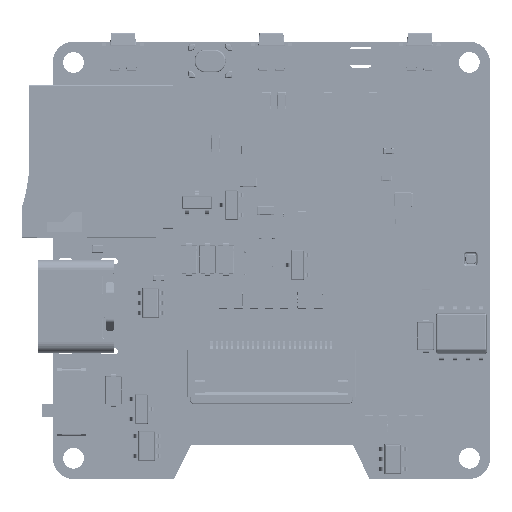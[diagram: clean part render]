
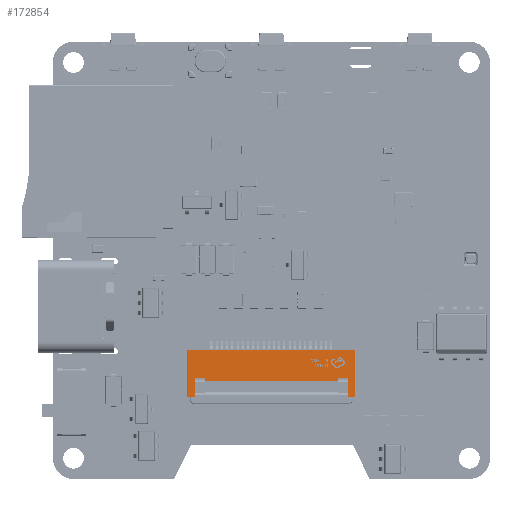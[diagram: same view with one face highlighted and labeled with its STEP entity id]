
A CAD part, top view. The second image highlights one B-rep face of the part: STEP entity #172854.
In plain terms, the highlighted planar face has unit normal (0, 0, 1).
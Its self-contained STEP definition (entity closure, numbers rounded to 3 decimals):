
#118796=CARTESIAN_POINT('NONE',(-6.349,-1.,2.));
#119092=CARTESIAN_POINT('NONE',(6.349,-0.7,2.));
#119207=DIRECTION('NONE',(-1.,0.,0.));
#119262 = PLANE('NONE',#152130) ;
#120369=DIRECTION('NONE',(0.,-1.,0.));
#120433=DIRECTION('NONE',(0.,-1.,0.));
#120490 = LINE('NONE',#125055,#163314) ;
#121217=DIRECTION('NONE',(0.,1.,0.));
#122499=CARTESIAN_POINT('NONE',(7.999,-2.45,2.));
#123602 = EDGE_CURVE('NONE',#142149,#177747,#176579,.T.) ;
#123939 = LINE('NONE',#129097,#128405) ;
#124751=DIRECTION('NONE',(-1.,0.,0.));
#125055=CARTESIAN_POINT('NONE',(-8.099,2.05,2.));
#125077=DIRECTION('NONE',(-1.,0.,0.));
#126264 = ORIENTED_EDGE('NONE',*,*,#155897,.T.) ;
#128405=VECTOR('NONE',#175008,999.9200000000001.);
#128904 = EDGE_CURVE('NONE',#168753,#172395,#151723,.T.) ;
#129052 = LINE('NONE',#134223,#175474) ;
#129097=CARTESIAN_POINT('NONE',(7.349,-0.7,2.));
#129929=CARTESIAN_POINT('NONE',(6.349,-1.,2.));
#130938 = ORIENTED_EDGE('NONE',*,*,#133746,.T.) ;
#131165 = VERTEX_POINT('NONE',#132175) ;
#131600 = EDGE_CURVE('NONE',#143748,#162889,#175836,.T.) ;
#132175=CARTESIAN_POINT('NONE',(-6.349,-0.7,2.));
#133746 = EDGE_CURVE('NONE',#168404,#157327,#139215,.T.) ;
#134223=CARTESIAN_POINT('NONE',(-8.099,-2.45,2.));
#134719=CARTESIAN_POINT('NONE',(-7.349,-2.45,2.));
#134733=DIRECTION('NONE',(1.,0.,0.));
#135111 = ORIENTED_EDGE('NONE',*,*,#148860,.F.) ;
#137652=CARTESIAN_POINT('NONE',(6.349,-1.,2.));
#137713 = EDGE_CURVE('NONE',#157327,#137969,#129052,.T.) ;
#137969 = VERTEX_POINT('NONE',#155151) ;
#139215 = LINE('NONE',#144055,#178322) ;
#140592 = LINE('NONE',#163073,#157879) ;
#140615 = ORIENTED_EDGE('NONE',*,*,#131600,.F.) ;
#141958=VECTOR('NONE',#120433,999.9200000000001.);
#142149 = VERTEX_POINT('NONE',#122499) ;
#142493=VECTOR('NONE',#125077,999.9200000000001.);
#143496=CARTESIAN_POINT('NONE',(-7.999,-2.45,2.));
#143748 = VERTEX_POINT('NONE',#137652) ;
#143842=DIRECTION('NONE',(0.,0.,1.));
#144055=CARTESIAN_POINT('NONE',(-7.999,-2.45,2.));
#144343=DIRECTION('NONE',(0.,1.,0.));
#144571 = ORIENTED_EDGE('NONE',*,*,#146785,.F.) ;
#146608=DIRECTION('NONE',(-1.,0.,0.));
#146785 = EDGE_CURVE('NONE',#176123,#137969,#166597,.T.) ;
#147516 = EDGE_CURVE('NONE',#172395,#143748,#158193,.T.) ;
#147853 = ORIENTED_EDGE('NONE',*,*,#128904,.F.) ;
#148860 = EDGE_CURVE('NONE',#162889,#131165,#157688,.T.) ;
#149449=VECTOR('NONE',#146608,999.9200000000001.);
#151723 = LINE('NONE',#156874,#162841) ;
#152130=AXIS2_PLACEMENT_3D('NONE',#157815,#143842,#134733);
#152367 = EDGE_CURVE('NONE',#131165,#176123,#165074,.T.) ;
#153115=CARTESIAN_POINT('NONE',(7.349,-2.45,2.));
#154797 = VERTEX_POINT('NONE',#153115) ;
#155151=CARTESIAN_POINT('NONE',(-7.349,-2.45,2.));
#155484=VECTOR('NONE',#175001,999.9200000000001.);
#155897 = EDGE_CURVE('NONE',#177747,#168404,#120490,.T.) ;
#156306 = FACE_OUTER_BOUND('NONE',#164399,.T.) ;
#156874=CARTESIAN_POINT('NONE',(6.349,-0.7,2.));
#157327 = VERTEX_POINT('NONE',#143496) ;
#157688 = LINE('NONE',#176257,#175106) ;
#157693 = ORIENTED_EDGE('NONE',*,*,#147516,.F.) ;
#157815=CARTESIAN_POINT('NONE',(0.,0.,2.));
#157879=VECTOR('NONE',#167665,999.9200000000001.);
#157915 = ORIENTED_EDGE('NONE',*,*,#137713,.T.) ;
#158193 = LINE('NONE',#129929,#155484) ;
#158526 = ORIENTED_EDGE('NONE',*,*,#171687,.T.) ;
#159652=CARTESIAN_POINT('NONE',(-7.349,-0.7,2.));
#162841=VECTOR('NONE',#119207,999.9200000000001.);
#162889 = VERTEX_POINT('NONE',#118796) ;
#163073=CARTESIAN_POINT('NONE',(-8.099,-2.45,2.));
#163314=VECTOR('NONE',#124751,999.9200000000001.);
#163439=CARTESIAN_POINT('NONE',(7.999,2.05,2.));
#164399 = EDGE_LOOP('NONE',(#158526,#164773,#126264,#130938,#157915,#144571,#172196,#135111,#140615,#157693,#147853,#175167)) ;
#164740=CARTESIAN_POINT('NONE',(-7.999,2.05,2.));
#164773 = ORIENTED_EDGE('NONE',*,*,#123602,.T.) ;
#165074 = LINE('NONE',#159652,#149449) ;
#165854 = EDGE_CURVE('NONE',#154797,#168753,#123939,.T.) ;
#166597 = LINE('NONE',#134719,#141958) ;
#167285=CARTESIAN_POINT('NONE',(-6.349,-1.,2.));
#167665=DIRECTION('NONE',(1.,0.,0.));
#168404 = VERTEX_POINT('NONE',#164740) ;
#168753 = VERTEX_POINT('NONE',#177723) ;
#170996=DIRECTION('NONE',(1.,0.,0.));
#171687 = EDGE_CURVE('NONE',#154797,#142149,#140592,.T.) ;
#172196 = ORIENTED_EDGE('NONE',*,*,#152367,.F.) ;
#172382=CARTESIAN_POINT('NONE',(7.999,2.05,2.));
#172395 = VERTEX_POINT('NONE',#119092) ;
#172783=CARTESIAN_POINT('NONE',(-7.349,-0.7,2.));
#172854 = ADVANCED_FACE('NONE',(#156306),#119262,.T.) ;
#174012=VECTOR('NONE',#144343,999.9200000000001.);
#175001=DIRECTION('NONE',(0.,-1.,0.));
#175008=DIRECTION('NONE',(0.,1.,0.));
#175106=VECTOR('NONE',#121217,999.9200000000001.);
#175167 = ORIENTED_EDGE('NONE',*,*,#165854,.F.) ;
#175474=VECTOR('NONE',#170996,999.9200000000001.);
#175836 = LINE('NONE',#167285,#142493) ;
#176123 = VERTEX_POINT('NONE',#172783) ;
#176257=CARTESIAN_POINT('NONE',(-6.349,-0.7,2.));
#176579 = LINE('NONE',#163439,#174012) ;
#177723=CARTESIAN_POINT('NONE',(7.349,-0.7,2.));
#177747 = VERTEX_POINT('NONE',#172382) ;
#178322=VECTOR('NONE',#120369,999.9200000000001.);
